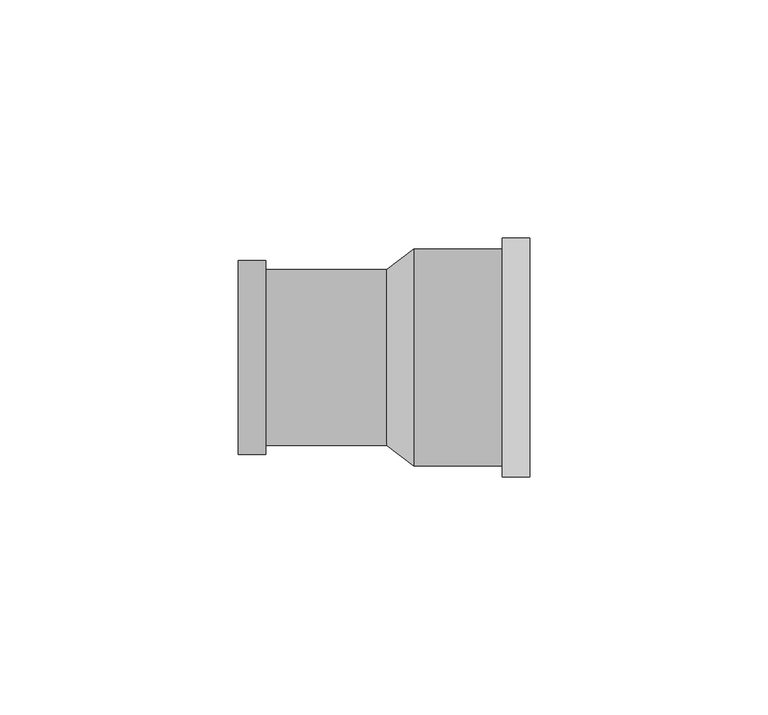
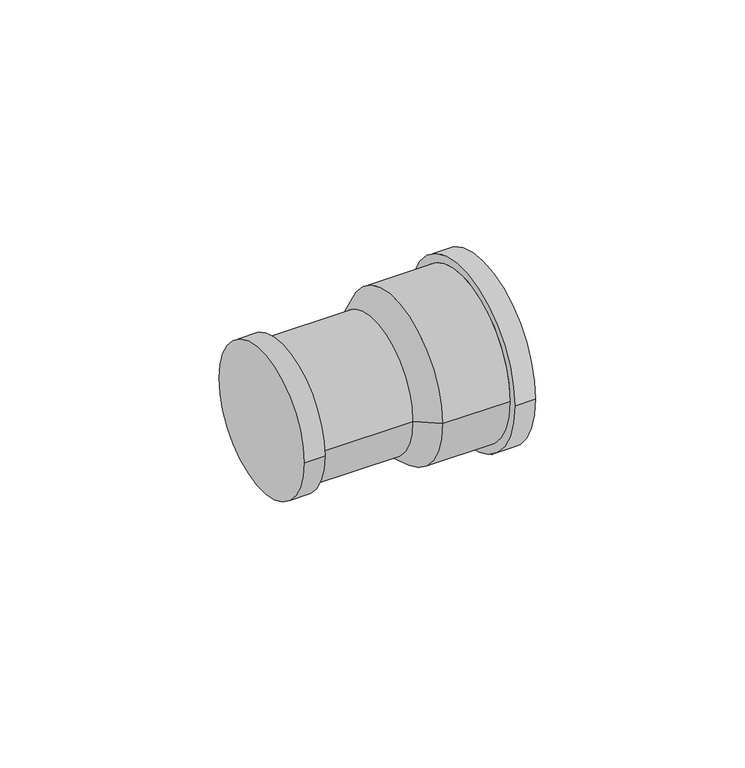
"""IFC4 building model written with IfcOpenShell, lengths in millimetres: pipe fitting geometry, Redutor de acoplamento - PVC - CW : Padrão."""

from ifc_helpers import new_model, si_unit, frame, origin, place, context, project, spatial, polyline, circle_curve, source, transform, mapped, element, save
from ifc_brep_helpers import plane_surface, cylinder_surface, revolved_surface, advanced_brep


def pipe_fitting_1f557113(model_context):
    return source(origin(), model_context, "Body", "AdvancedBrep", [
        advanced_brep(
        [(31.2, 18.5, 0.0), (36.8, 22.8, 0.0), (36.8, -22.8, 0.0), (31.2, -18.5, 0.0), (0.0, -20.35, 0.0), (0.0, 20.35, 0.0), (5.75, -18.5, 0.0), (5.75, 18.5, 0.0), (5.75, -20.35, 0.0), (5.75, 20.35, 0.0), (61.2, 25.08, 0.0), (61.2, -25.08, 0.0), (55.45, -22.8, 0.0), (55.45, 22.8, 0.0), (55.45, 25.08, 0.0), (55.45, -25.08, 0.0)],
        [
            (0, 1),
            (1, 2, circle_curve(frame((36.8, 0.0, 0.0), z_axis=(-1.0, 0.0, 0.0), x_axis=(0.0, -1.0, 0.0)), 22.8)),
            (2, 3),
            (3, 0, circle_curve(frame((31.2, 0.0, 0.0), z_axis=(1.0, 0.0, 0.0), x_axis=(0.0, -1.0, 0.0)), 18.5)),
            (0, 3, circle_curve(frame((31.2, 0.0, 0.0), z_axis=(1.0, 0.0, 0.0), x_axis=(0.0, 1.0, 0.0)), 18.5)),
            (2, 1, circle_curve(frame((36.8, 0.0, 0.0), z_axis=(-1.0, 0.0, 0.0), x_axis=(0.0, 1.0, 0.0)), 22.8)),
            (4, 5, circle_curve(frame((0.0, 0.0, 0.0), z_axis=(-1.0, 0.0, 0.0), x_axis=(0.0, 1.0, 0.0)), 20.35)),
            (5, 4, circle_curve(frame((0.0, 0.0, 0.0), z_axis=(-1.0, 0.0, 0.0), x_axis=(0.0, 1.0, 0.0)), 20.35)),
            (6, 3),
            (0, 7),
            (7, 6, circle_curve(frame((5.75, 0.0, 0.0), z_axis=(1.0, 0.0, 0.0), x_axis=(0.0, 1.0, 0.0)), 18.5)),
            (6, 7, circle_curve(frame((5.75, 0.0, 0.0), z_axis=(1.0, 0.0, 0.0), x_axis=(0.0, 1.0, 0.0)), 18.5)),
            (8, 9, circle_curve(frame((5.75, 0.0, 0.0), z_axis=(1.0, 0.0, 0.0), x_axis=(0.0, 1.0, 0.0)), 20.35)),
            (9, 8, circle_curve(frame((5.75, 0.0, 0.0), z_axis=(1.0, 0.0, 0.0), x_axis=(0.0, 1.0, 0.0)), 20.35)),
            (4, 8),
            (9, 5),
            (10, 11, circle_curve(frame((61.2, 0.0, 0.0), z_axis=(1.0, 0.0, 0.0), x_axis=(0.0, -1.0, 0.0)), 25.08)),
            (11, 10, circle_curve(frame((61.2, 0.0, 0.0), z_axis=(1.0, 0.0, 0.0), x_axis=(0.0, -1.0, 0.0)), 25.08)),
            (2, 12),
            (12, 13, circle_curve(frame((55.45, 0.0, 0.0), z_axis=(-1.0, 0.0, 0.0), x_axis=(0.0, 1.0, 0.0)), 22.8)),
            (13, 1),
            (13, 12, circle_curve(frame((55.45, 0.0, 0.0), z_axis=(-1.0, 0.0, 0.0), x_axis=(0.0, 1.0, 0.0)), 22.8)),
            (14, 15, circle_curve(frame((55.45, 0.0, 0.0), z_axis=(-1.0, 0.0, 0.0), x_axis=(0.0, -1.0, 0.0)), 25.08)),
            (15, 14, circle_curve(frame((55.45, 0.0, 0.0), z_axis=(-1.0, 0.0, 0.0), x_axis=(0.0, -1.0, 0.0)), 25.08)),
            (10, 14),
            (15, 11),
        ],
        [
            revolved_surface(polyline([(31.2, 18.50000000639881, 0.0), (36.8, 22.8, 0.0)]), (7.1069767, 0.0, 0.0), (1.0, 0.0, 0.0)),
            plane_surface(frame((0.0, 0.0, 0.0), z_axis=(-1.0, 0.0, 0.0), x_axis=(0.0, 0.0, 1.0))),
            cylinder_surface(frame((0.0, 0.0, 0.0), z_axis=(-1.0, 0.0, 0.0), x_axis=(0.0, 1.0, 0.0)), 18.5),
            plane_surface(frame((5.75, 0.0, 0.0), z_axis=(1.0, 0.0, 0.0), x_axis=(0.0, 0.0, 1.0))),
            cylinder_surface(frame((0.0, 0.0, 0.0), z_axis=(-1.0, 0.0, 0.0), x_axis=(0.0, 1.0, 0.0)), 20.35),
            plane_surface(frame((61.2, 0.0, 0.0), z_axis=(1.0, 0.0, 0.0), x_axis=(0.0, 0.0, 1.0))),
            cylinder_surface(frame((36.8, 0.0, 0.0), z_axis=(-1.0, 0.0, 0.0), x_axis=(0.0, 1.0, 0.0)), 22.8),
            plane_surface(frame((55.45, 0.0, 0.0), z_axis=(-1.0, 0.0, 0.0), x_axis=(0.0, 0.0, 1.0))),
            cylinder_surface(frame((61.2, 0.0, 0.0), z_axis=(1.0, 0.0, 0.0), x_axis=(0.0, -1.0, 0.0)), 25.08),
        ],
        [
            (0, [[1, 2, 3, 4]]),
            (0, [[-1, 5, -3, 6]]),
            (1, [[7, 8]]),
            (2, [[9, -5, 10, 11]]),
            (2, [[-9, 12, -10, -4]]),
            (3, [[13, 14], [-11, -12]]),
            (4, [[-7, 15, -14, 16]]),
            (4, [[-8, -16, -13, -15]]),
            (5, [[17, 18]]),
            (6, [[19, 20, 21, -6]]),
            (6, [[-19, -2, -21, 22]]),
            (7, [[23, 24], [-20, -22]]),
            (8, [[-17, 25, -24, 26]]),
            (8, [[-18, -26, -23, -25]]),
        ],
    ),
    ])


if __name__ == "__main__":
    model = new_model("IFC4")
    model_context = context("Model", 3, world=origin())
    ifc_project = project(units=[si_unit("LENGTHUNIT", "METRE", prefix="MILLI")], contexts=[model_context])
    site = spatial("IfcSite", under=ifc_project)
    building = spatial("IfcBuilding", under=site)
    placement = place(None, origin())
    pipe_fitting_shape = pipe_fitting_1f557113(model_context)
    element("IfcPipeFitting", 1, ObjectType="Redutor de acoplamento - PVC - CW : Padrão", at=placement, inside=building, context=model_context, shape_type="MappedRepresentation", body=[
        mapped(pipe_fitting_shape, transform((0.0, 0.0, 0.0), x_axis=(1.0, 0.0, 0.0), y_axis=(0.0, 1.0, 0.0), z_axis=(0.0, 0.0, 1.0))),
    ])
    save(model, "model.ifc")
